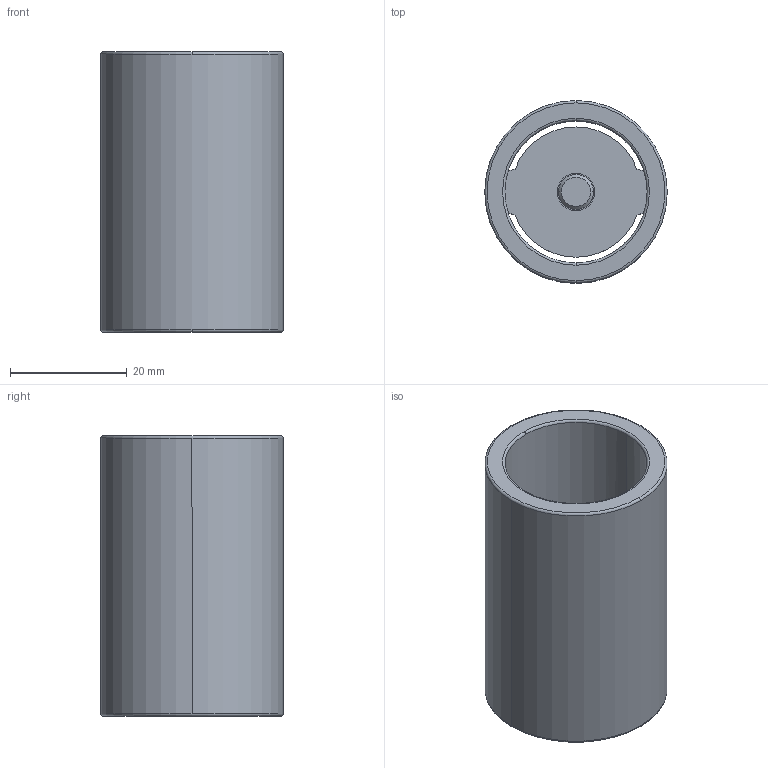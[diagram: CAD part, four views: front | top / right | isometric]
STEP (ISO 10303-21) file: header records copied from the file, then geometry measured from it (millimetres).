
FILE_DESCRIPTION((''),'2;1');
FILE_NAME('C11_024_048.stp','2009-01-12T09:14:47',(''),(''),'Mechanical Desktop 2009','Mechanical Desktop 2009',', , ');
FILE_SCHEMA(('CONFIG_CONTROL_DESIGN'));
Length unit declared in the file: millimetre
Products named in the file (2): Product; blmdl1
Assembly tree (1 placements, depth 2):
  Product
    blmdl1
Bounding box: 31.25 x 31.25 x 48 mm (x, y, z)
Volume: 15903 mm3; surface area: 10670.5 mm2
Topology: 3 solids, 3 shells, 44 faces, 110 edges, 74 vertices
Faces by surface type: cylinder 16, plane 16, torus 10, cone 2
Entity records: 1507 total; most frequent: CARTESIAN_POINT 274, DIRECTION 266, ORIENTED_EDGE 220, AXIS2_PLACEMENT_3D 114, EDGE_CURVE 110, VERTEX_POINT 74, CIRCLE 68, EDGE_LOOP 50
